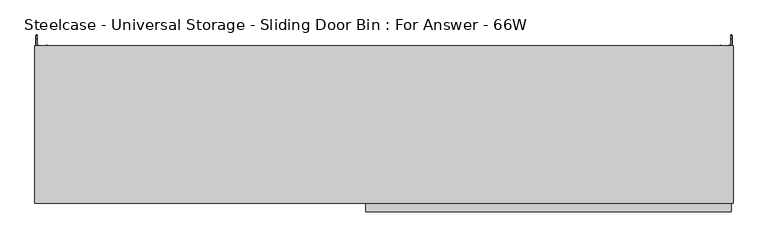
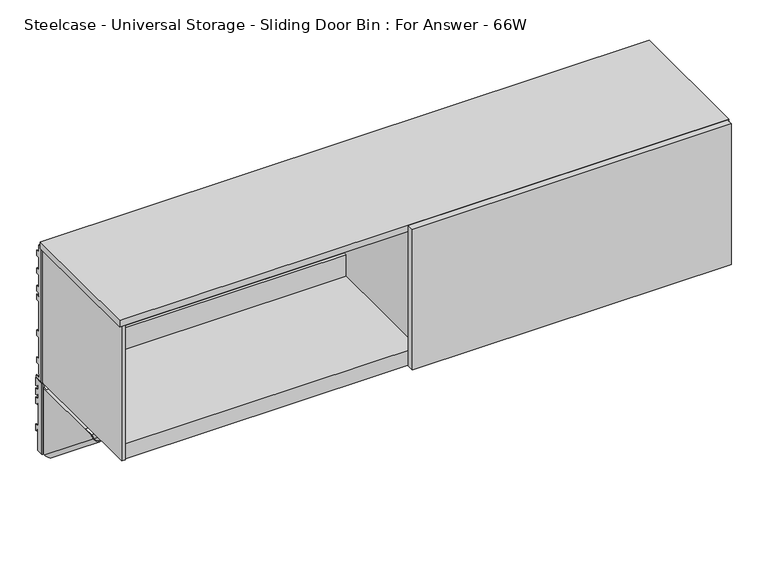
"""IFC4 building model written with IfcOpenShell, lengths in millimetres: furniture geometry, Steelcase - Universal Storage - Sliding Door Bin : For Answer - 66W."""

from ifc_helpers import new_model, si_unit, frame, origin, place, context, project, spatial, polyline, circle_curve, ellipse_curve, outline, extrude, faceted_brep, source, transform, mapped, element, save
from ifc_brep_helpers import plane_surface, cylinder_surface, revolved_surface, advanced_brep


def steelcase_universal_storage_sliding_door_bin_for_answer_66w_88fc4fc5(model_context):
    return source(origin(), model_context, "Body", "SolidModel", [
        advanced_brep(
        [(4.0894, 24.9864881, 1265.2629), (4.0894, 1.1327479, 1265.2629), (4.0894, 1.1203386, 1058.2783), (4.0894, 17.3410881, 1058.2783), (4.0894, 17.3410881, 1118.4254822), (4.0894, 21.4050888, 1118.4254822), (4.0894, 21.4050888, 1112.0755064), (4.0894, 24.9864881, 1112.0755064), (4.0894, 24.9864881, 1130.3381271), (4.0894, 14.7756879, 1130.3381271), (4.0894, 14.7756879, 1196.9115345), (4.0894, 18.8396885, 1196.9115345), (4.0894, 18.8396885, 1190.561486), (4.0894, 24.9864881, 1190.561486), (4.0894, 24.9864881, 1208.8241068), (4.0894, 14.7756879, 1208.8241068), (4.0894, 14.7756879, 1223.0735277), (4.0894, 18.8396885, 1223.0735277), (4.0894, 18.8396885, 1216.7234793), (4.0894, 24.9864881, 1216.7234793), (4.0894, 24.9864881, 1234.9861), (4.0894, 14.7756879, 1234.9861), (4.0894, 14.7756879, 1249.2355209), (4.0894, 18.8396885, 1249.2355209), (4.0894, 18.8396885, 1242.8854725), (4.0894, 24.9864881, 1242.8854725), (2.1844, 24.9864881, 1265.2629), (2.1844, 24.9864881, 1242.8854725), (2.1844, 18.8396885, 1242.8854725), (2.1844, 18.8396885, 1249.2355209), (2.1844, 14.7756879, 1249.2355209), (2.1844, 14.7756879, 1234.9861), (2.1844, 24.9864881, 1234.9861), (2.1844, 24.9864881, 1216.7234793), (2.1844, 18.8396885, 1216.7234793), (2.1844, 18.8396885, 1223.0735277), (2.1844, 14.7756879, 1223.0735277), (2.1844, 14.7756879, 1208.8241068), (2.1844, 24.9864881, 1208.8241068), (2.1844, 24.9864881, 1190.561486), (2.1844, 18.8396885, 1190.561486), (2.1844, 18.8396885, 1196.9115345), (2.1844, 14.7756879, 1196.9115345), (2.1844, 14.7756879, 1130.3381271), (2.1844, 24.9864881, 1130.3381271), (2.1844, 24.9864881, 1112.0755064), (2.1844, 21.4050888, 1112.0755064), (2.1844, 21.4050888, 1118.4254822), (2.1844, 17.3410881, 1118.4254822), (2.1844, 17.3410881, 1058.2783), (2.1844, -0.7757522, 1058.2783), (2.1844, -0.7757522, 1265.2629), (4.4891598, -3.080512, 1265.2629), (8.1026, -3.080512, 1265.2629), (8.1026, -1.7838863, 1265.2629), (7.4942256, -1.175512, 1265.2629), (6.3852506, -1.175512, 1265.2629), (6.3852506, -1.175512, 1058.2783), (7.4942256, -1.175512, 1058.2783), (8.1026, -1.7838863, 1058.2783), (8.1026, -3.080512, 1058.2783), (4.4891598, -3.080512, 1058.2783)],
        [
            (0, 1),
            (1, 2),
            (2, 3),
            (3, 4),
            (4, 5),
            (5, 6),
            (6, 7),
            (7, 8),
            (8, 9),
            (9, 10),
            (10, 11),
            (11, 12),
            (12, 13),
            (13, 14),
            (14, 15),
            (15, 16),
            (16, 17),
            (17, 18),
            (18, 19),
            (19, 20),
            (20, 21),
            (21, 22),
            (22, 23),
            (23, 24),
            (24, 25),
            (25, 0),
            (26, 27),
            (27, 28),
            (28, 29),
            (29, 30),
            (30, 31),
            (31, 32),
            (32, 33),
            (33, 34),
            (34, 35),
            (35, 36),
            (36, 37),
            (37, 38),
            (38, 39),
            (39, 40),
            (40, 41),
            (41, 42),
            (42, 43),
            (43, 44),
            (44, 45),
            (45, 46),
            (46, 47),
            (47, 48),
            (48, 49),
            (49, 50),
            (50, 51),
            (51, 26),
            (0, 26),
            (51, 52, circle_curve(frame((4.4891598, -0.7757522, 1265.2629), z_axis=(0.0, 0.0, 1.0), x_axis=(1.0, 0.0, 0.0)), 2.3047598)),
            (52, 53),
            (53, 54),
            (54, 55, circle_curve(frame((7.4942256, -1.7838863, 1265.2629), z_axis=(0.0, 0.0, 1.0), x_axis=(1.0, 0.0, 0.0)), 0.6083744)),
            (55, 56),
            (56, 1, circle_curve(frame((6.3852506, 1.1203386, 1265.2629), z_axis=(0.0, 0.0, -1.0), x_axis=(1.0, 0.0, 0.0)), 2.2958506)),
            (2, 57, circle_curve(frame((6.3852506, 1.1203386, 1058.2783), z_axis=(0.0, 0.0, 1.0), x_axis=(1.0, 0.0, 0.0)), 2.2958506)),
            (57, 58),
            (58, 59, circle_curve(frame((7.4942256, -1.7838863, 1058.2783), z_axis=(0.0, 0.0, -1.0), x_axis=(1.0, 0.0, 0.0)), 0.6083744)),
            (59, 60),
            (60, 61),
            (61, 50, circle_curve(frame((4.4891598, -0.7757522, 1058.2783), z_axis=(0.0, 0.0, -1.0), x_axis=(1.0, 0.0, 0.0)), 2.3047598)),
            (49, 3),
            (48, 4),
            (47, 5),
            (46, 6),
            (45, 7),
            (44, 8),
            (43, 9),
            (42, 10),
            (41, 11),
            (40, 12),
            (39, 13),
            (38, 14),
            (37, 15),
            (36, 16),
            (35, 17),
            (34, 18),
            (33, 19),
            (32, 20),
            (31, 21),
            (30, 22),
            (29, 23),
            (28, 24),
            (27, 25),
            (61, 52),
            (60, 53),
            (59, 54),
            (58, 55),
            (57, 56),
        ],
        [
            plane_surface(frame((4.0894, 1.241405, 1265.2629), z_axis=(1.0, 0.0, 0.0), x_axis=(0.0, -1.0, 0.0))),
            plane_surface(frame((2.1844, 1.241405, 1265.2629), z_axis=(-1.0, 0.0, 0.0), x_axis=(0.0, 1.0, 0.0))),
            plane_surface(frame((4.0894, 24.9864881, 1265.2629), z_axis=(0.0, 0.0, 1.0), x_axis=(-1.0, 0.0, 0.0))),
            plane_surface(frame((4.0894, 1.1327479, 1058.2783), z_axis=(0.0, 0.0, -1.0), x_axis=(-1.0, 0.0, 0.0))),
            plane_surface(frame((4.0894, 17.3410881, 1058.2783), z_axis=(0.0, 1.0, 0.0), x_axis=(-1.0, 0.0, 0.0))),
            plane_surface(frame((4.0894, 17.3410881, 1118.4254822), z_axis=(0.0, 0.0, -1.0), x_axis=(-1.0, 0.0, 0.0))),
            plane_surface(frame((4.0894, 21.4050888, 1118.4254822), z_axis=(0.0, -1.0, 0.0), x_axis=(-1.0, 0.0, 0.0))),
            plane_surface(frame((4.0894, 21.4050888, 1112.0755064), z_axis=(0.0, 0.0, -1.0), x_axis=(-1.0, 0.0, 0.0))),
            plane_surface(frame((4.0894, 24.9864881, 1112.0755064), z_axis=(0.0, 1.0, 0.0), x_axis=(-1.0, 0.0, 0.0))),
            plane_surface(frame((4.0894, 24.9864881, 1130.3381271), z_axis=(0.0, 0.0, 1.0), x_axis=(-1.0, 0.0, 0.0))),
            plane_surface(frame((4.0894, 14.7756879, 1130.3381271), z_axis=(0.0, 1.0, 0.0), x_axis=(-1.0, 0.0, 0.0))),
            plane_surface(frame((4.0894, 14.7756879, 1196.9115345), z_axis=(0.0, 0.0, -1.0), x_axis=(-1.0, 0.0, 0.0))),
            plane_surface(frame((4.0894, 18.8396885, 1196.9115345), z_axis=(0.0, -1.0, 0.0), x_axis=(-1.0, 0.0, 0.0))),
            plane_surface(frame((4.0894, 18.8396885, 1190.561486), z_axis=(0.0, 0.0, -1.0), x_axis=(-1.0, 0.0, 0.0))),
            plane_surface(frame((4.0894, 24.9864881, 1190.561486), z_axis=(0.0, 1.0, 0.0), x_axis=(-1.0, 0.0, 0.0))),
            plane_surface(frame((4.0894, 24.9864881, 1208.8241068), z_axis=(0.0, 0.0, 1.0), x_axis=(-1.0, 0.0, 0.0))),
            plane_surface(frame((4.0894, 14.7756879, 1208.8241068), z_axis=(0.0, 1.0, 0.0), x_axis=(-1.0, 0.0, 0.0))),
            plane_surface(frame((4.0894, 14.7756879, 1223.0735277), z_axis=(0.0, 0.0, -1.0), x_axis=(-1.0, 0.0, 0.0))),
            plane_surface(frame((4.0894, 18.8396885, 1223.0735277), z_axis=(0.0, -1.0, 0.0), x_axis=(-1.0, 0.0, 0.0))),
            plane_surface(frame((4.0894, 18.8396885, 1216.7234793), z_axis=(0.0, 0.0, -1.0), x_axis=(-1.0, 0.0, 0.0))),
            plane_surface(frame((4.0894, 24.9864881, 1216.7234793), z_axis=(0.0, 1.0, 0.0), x_axis=(-1.0, 0.0, 0.0))),
            plane_surface(frame((4.0894, 24.9864881, 1234.9861), z_axis=(0.0, 0.0, 1.0), x_axis=(-1.0, 0.0, 0.0))),
            plane_surface(frame((4.0894, 14.7756879, 1234.9861), z_axis=(0.0, 1.0, 0.0), x_axis=(-1.0, 0.0, 0.0))),
            plane_surface(frame((4.0894, 14.7756879, 1249.2355209), z_axis=(0.0, 0.0, -1.0), x_axis=(-1.0, 0.0, 0.0))),
            plane_surface(frame((4.0894, 18.8396885, 1249.2355209), z_axis=(0.0, -1.0, 0.0), x_axis=(-1.0, 0.0, 0.0))),
            plane_surface(frame((4.0894, 18.8396885, 1242.8854725), z_axis=(0.0, 0.0, -1.0), x_axis=(-1.0, 0.0, 0.0))),
            plane_surface(frame((4.0894, 24.9864881, 1242.8854725), z_axis=(0.0, 1.0, 0.0), x_axis=(-1.0, 0.0, 0.0))),
            cylinder_surface(frame((4.4891598, -0.7757522, 1058.2783), z_axis=(0.0, 0.0, 1.0), x_axis=(1.0, 0.0, 0.0)), 2.3047598),
            plane_surface(frame((4.4891598, -3.080512, 1265.2629), z_axis=(0.0, -1.0, 0.0), x_axis=(0.0, 0.0, -1.0))),
            plane_surface(frame((8.1026, -3.080512, 1265.2629), z_axis=(1.0, 0.0, 0.0), x_axis=(0.0, 0.0, -1.0))),
            cylinder_surface(frame((7.4942256, -1.7838863, 1058.2783), z_axis=(0.0, 0.0, 1.0), x_axis=(1.0, 0.0, 0.0)), 0.6083744),
            plane_surface(frame((7.4942256, -1.175512, 1265.2629), z_axis=(0.0, 1.0, 0.0), x_axis=(0.0, 0.0, -1.0))),
            revolved_surface(polyline([(8.6811012, 1.1203386, 1058.2783), (8.6811012, 1.1203386, 1265.2629)]), (6.3852506, 1.1203386, 1058.2783), (0.0, 0.0, -1.0)),
        ],
        [
            (0, [[1, 2, 3, 4, 5, 6, 7, 8, 9, 10, 11, 12, 13, 14, 15, 16, 17, 18, 19, 20, 21, 22, 23, 24, 25, 26]]),
            (1, [[27, 28, 29, 30, 31, 32, 33, 34, 35, 36, 37, 38, 39, 40, 41, 42, 43, 44, 45, 46, 47, 48, 49, 50, 51, 52]]),
            (2, [[-1, 53, -52, 54, 55, 56, 57, 58, 59]]),
            (3, [[-3, 60, 61, 62, 63, 64, 65, -50, 66]]),
            (4, [[-4, -66, -49, 67]]),
            (5, [[-5, -67, -48, 68]]),
            (6, [[-6, -68, -47, 69]]),
            (7, [[-7, -69, -46, 70]]),
            (8, [[-8, -70, -45, 71]]),
            (9, [[-9, -71, -44, 72]]),
            (10, [[-10, -72, -43, 73]]),
            (11, [[-11, -73, -42, 74]]),
            (12, [[-12, -74, -41, 75]]),
            (13, [[-13, -75, -40, 76]]),
            (14, [[-14, -76, -39, 77]]),
            (15, [[-15, -77, -38, 78]]),
            (16, [[-16, -78, -37, 79]]),
            (17, [[-17, -79, -36, 80]]),
            (18, [[-18, -80, -35, 81]]),
            (19, [[-19, -81, -34, 82]]),
            (20, [[-20, -82, -33, 83]]),
            (21, [[-21, -83, -32, 84]]),
            (22, [[-22, -84, -31, 85]]),
            (23, [[-23, -85, -30, 86]]),
            (24, [[-24, -86, -29, 87]]),
            (25, [[-25, -87, -28, 88]]),
            (26, [[-26, -88, -27, -53]]),
            (27, [[-54, -51, -65, 89]]),
            (28, [[-55, -89, -64, 90]]),
            (29, [[-56, -90, -63, 91]]),
            (30, [[-57, -91, -62, 92]]),
            (31, [[-58, -92, -61, 93]]),
            (32, [[-59, -93, -60, -2]]),
        ],
    ),
        advanced_brep(
        [(1672.3106, 24.9864881, 1265.2629), (1672.3106, 24.9864881, 1242.8854725), (1672.3106, 18.8396885, 1242.8854725), (1672.3106, 18.8396885, 1249.2355209), (1672.3106, 14.7756879, 1249.2355209), (1672.3106, 14.7756879, 1234.9861), (1672.3106, 24.9864881, 1234.9861), (1672.3106, 24.9864881, 1216.7234793), (1672.3106, 18.8396885, 1216.7234793), (1672.3106, 18.8396885, 1223.0735277), (1672.3106, 14.7756879, 1223.0735277), (1672.3106, 14.7756879, 1208.8241068), (1672.3106, 24.9864881, 1208.8241068), (1672.3106, 24.9864881, 1190.561486), (1672.3106, 18.8396885, 1190.561486), (1672.3106, 18.8396885, 1196.9115345), (1672.3106, 14.7756879, 1196.9115345), (1672.3106, 14.7756879, 1130.3381271), (1672.3106, 24.9864881, 1130.3381271), (1672.3106, 24.9864881, 1112.0755064), (1672.3106, 21.4050888, 1112.0755064), (1672.3106, 21.4050888, 1118.4254822), (1672.3106, 17.3410881, 1118.4254822), (1672.3106, 17.3410881, 1058.2783), (1672.3106, 1.1327479, 1058.2783), (1672.3106, 1.1203386, 1265.2629), (1674.2156, -0.7757522, 1265.2629), (1674.2156, -0.7757522, 1058.2783), (1674.2156, 17.3410881, 1058.2783), (1674.2156, 17.3410881, 1118.4254822), (1674.2156, 21.4050888, 1118.4254822), (1674.2156, 21.4050888, 1112.0755064), (1674.2156, 24.9864881, 1112.0755064), (1674.2156, 24.9864881, 1130.3381271), (1674.2156, 14.7756879, 1130.3381271), (1674.2156, 14.7756879, 1196.9115345), (1674.2156, 18.8396885, 1196.9115345), (1674.2156, 18.8396885, 1190.561486), (1674.2156, 24.9864881, 1190.561486), (1674.2156, 24.9864881, 1208.8241068), (1674.2156, 14.7756879, 1208.8241068), (1674.2156, 14.7756879, 1223.0735277), (1674.2156, 18.8396885, 1223.0735277), (1674.2156, 18.8396885, 1216.7234793), (1674.2156, 24.9864881, 1216.7234793), (1674.2156, 24.9864881, 1234.9861), (1674.2156, 14.7756879, 1234.9861), (1674.2156, 14.7756879, 1249.2355209), (1674.2156, 18.8396885, 1249.2355209), (1674.2156, 18.8396885, 1242.8854725), (1674.2156, 24.9864881, 1242.8854725), (1674.2156, 24.9864881, 1265.2629), (1671.9108402, -3.080512, 1058.2783), (1668.5006, -3.080512, 1058.2783), (1668.5006, -1.7838863, 1058.2783), (1669.1089744, -1.175512, 1058.2783), (1670.0147494, -1.175512, 1058.2783), (1670.0147494, -1.175512, 1265.2629), (1669.1089744, -1.175512, 1265.2629), (1668.5006, -1.7838863, 1265.2629), (1668.5006, -3.080512, 1265.2629), (1671.9108402, -3.080512, 1265.2629)],
        [
            (0, 1),
            (1, 2),
            (2, 3),
            (3, 4),
            (4, 5),
            (5, 6),
            (6, 7),
            (7, 8),
            (8, 9),
            (9, 10),
            (10, 11),
            (11, 12),
            (12, 13),
            (13, 14),
            (14, 15),
            (15, 16),
            (16, 17),
            (17, 18),
            (18, 19),
            (19, 20),
            (20, 21),
            (21, 22),
            (22, 23),
            (23, 24),
            (24, 25),
            (25, 0),
            (26, 27),
            (27, 28),
            (28, 29),
            (29, 30),
            (30, 31),
            (31, 32),
            (32, 33),
            (33, 34),
            (34, 35),
            (35, 36),
            (36, 37),
            (37, 38),
            (38, 39),
            (39, 40),
            (40, 41),
            (41, 42),
            (42, 43),
            (43, 44),
            (44, 45),
            (45, 46),
            (46, 47),
            (47, 48),
            (48, 49),
            (49, 50),
            (50, 51),
            (51, 26),
            (0, 51),
            (50, 1),
            (49, 2),
            (48, 3),
            (47, 4),
            (46, 5),
            (45, 6),
            (44, 7),
            (43, 8),
            (42, 9),
            (41, 10),
            (40, 11),
            (39, 12),
            (38, 13),
            (37, 14),
            (36, 15),
            (35, 16),
            (34, 17),
            (33, 18),
            (32, 19),
            (31, 20),
            (30, 21),
            (29, 22),
            (28, 23),
            (27, 52, circle_curve(frame((1671.9108402, -0.7757522, 1058.2783), z_axis=(0.0, 0.0, -1.0), x_axis=(0.0, 1.0, 0.0)), 2.3047598)),
            (52, 53),
            (53, 54),
            (54, 55, circle_curve(frame((1669.1089744, -1.7838863, 1058.2783), z_axis=(0.0, 0.0, -1.0), x_axis=(0.0, 1.0, 0.0)), 0.6083744)),
            (55, 56),
            (56, 24, circle_curve(frame((1670.0147494, 1.1203386, 1058.2783), z_axis=(0.0, 0.0, 1.0), x_axis=(0.0, 1.0, 0.0)), 2.2958506)),
            (25, 57, circle_curve(frame((1670.0147494, 1.1203386, 1265.2629), z_axis=(0.0, 0.0, -1.0), x_axis=(0.0, 1.0, 0.0)), 2.2958506)),
            (57, 58),
            (58, 59, circle_curve(frame((1669.1089744, -1.7838863, 1265.2629), z_axis=(0.0, 0.0, 1.0), x_axis=(0.0, 1.0, 0.0)), 0.6083744)),
            (59, 60),
            (60, 61),
            (61, 26, circle_curve(frame((1671.9108402, -0.7757522, 1265.2629), z_axis=(0.0, 0.0, 1.0), x_axis=(0.0, 1.0, 0.0)), 2.3047598)),
            (56, 57),
            (55, 58),
            (54, 59),
            (53, 60),
            (52, 61),
        ],
        [
            plane_surface(frame((1672.3106, 24.9864881, 1265.2629), z_axis=(-1.0, 0.0, 0.0), x_axis=(0.0, 0.0, -1.0))),
            plane_surface(frame((1674.2156, 24.9864881, 1265.2629), z_axis=(1.0, 0.0, 0.0), x_axis=(0.0, 0.0, 1.0))),
            plane_surface(frame((1672.3106, 24.9864881, 1265.2629), z_axis=(0.0, 1.0, 0.0), x_axis=(1.0, 0.0, 0.0))),
            plane_surface(frame((1672.3106, 24.9864881, 1242.8854725), z_axis=(0.0, 0.0, -1.0), x_axis=(1.0, 0.0, 0.0))),
            plane_surface(frame((1672.3106, 18.8396885, 1242.8854725), z_axis=(0.0, -1.0, 0.0), x_axis=(1.0, 0.0, 0.0))),
            plane_surface(frame((1672.3106, 18.8396885, 1249.2355209), z_axis=(0.0, 0.0, -1.0), x_axis=(1.0, 0.0, 0.0))),
            plane_surface(frame((1672.3106, 14.7756879, 1249.2355209), z_axis=(0.0, 1.0, 0.0), x_axis=(1.0, 0.0, 0.0))),
            plane_surface(frame((1672.3106, 14.7756879, 1234.9861), z_axis=(0.0, 0.0, 1.0), x_axis=(1.0, 0.0, 0.0))),
            plane_surface(frame((1672.3106, 24.9864881, 1234.9861), z_axis=(0.0, 1.0, 0.0), x_axis=(1.0, 0.0, 0.0))),
            plane_surface(frame((1672.3106, 24.9864881, 1216.7234793), z_axis=(0.0, 0.0, -1.0), x_axis=(1.0, 0.0, 0.0))),
            plane_surface(frame((1672.3106, 18.8396885, 1216.7234793), z_axis=(0.0, -1.0, 0.0), x_axis=(1.0, 0.0, 0.0))),
            plane_surface(frame((1672.3106, 18.8396885, 1223.0735277), z_axis=(0.0, 0.0, -1.0), x_axis=(1.0, 0.0, 0.0))),
            plane_surface(frame((1672.3106, 14.7756879, 1223.0735277), z_axis=(0.0, 1.0, 0.0), x_axis=(1.0, 0.0, 0.0))),
            plane_surface(frame((1672.3106, 14.7756879, 1208.8241068), z_axis=(0.0, 0.0, 1.0), x_axis=(1.0, 0.0, 0.0))),
            plane_surface(frame((1672.3106, 24.9864881, 1208.8241068), z_axis=(0.0, 1.0, 0.0), x_axis=(1.0, 0.0, 0.0))),
            plane_surface(frame((1672.3106, 24.9864881, 1190.561486), z_axis=(0.0, 0.0, -1.0), x_axis=(1.0, 0.0, 0.0))),
            plane_surface(frame((1672.3106, 18.8396885, 1190.561486), z_axis=(0.0, -1.0, 0.0), x_axis=(1.0, 0.0, 0.0))),
            plane_surface(frame((1672.3106, 18.8396885, 1196.9115345), z_axis=(0.0, 0.0, -1.0), x_axis=(1.0, 0.0, 0.0))),
            plane_surface(frame((1672.3106, 14.7756879, 1196.9115345), z_axis=(0.0, 1.0, 0.0), x_axis=(1.0, 0.0, 0.0))),
            plane_surface(frame((1672.3106, 14.7756879, 1130.3381271), z_axis=(0.0, 0.0, 1.0), x_axis=(1.0, 0.0, 0.0))),
            plane_surface(frame((1672.3106, 24.9864881, 1130.3381271), z_axis=(0.0, 1.0, 0.0), x_axis=(1.0, 0.0, 0.0))),
            plane_surface(frame((1672.3106, 24.9864881, 1112.0755064), z_axis=(0.0, 0.0, -1.0), x_axis=(1.0, 0.0, 0.0))),
            plane_surface(frame((1672.3106, 21.4050888, 1112.0755064), z_axis=(0.0, -1.0, 0.0), x_axis=(1.0, 0.0, 0.0))),
            plane_surface(frame((1672.3106, 21.4050888, 1118.4254822), z_axis=(0.0, 0.0, -1.0), x_axis=(1.0, 0.0, 0.0))),
            plane_surface(frame((1672.3106, 17.3410881, 1118.4254822), z_axis=(0.0, 1.0, 0.0), x_axis=(1.0, 0.0, 0.0))),
            plane_surface(frame((1672.3106, 17.3410881, 1058.2783), z_axis=(0.0, 0.0, -1.0), x_axis=(1.0, 0.0, 0.0))),
            plane_surface(frame((1672.3106, 1.1327479, 1265.2629), z_axis=(0.0, 0.0, 1.0), x_axis=(1.0, 0.0, 0.0))),
            revolved_surface(polyline([(1670.0147494, 3.4161892, 1058.2783), (1670.0147494, 3.4161892, 1265.2629)]), (1670.0147494, 1.1203386, 1058.2783), (0.0, 0.0, -1.0)),
            plane_surface(frame((1670.0147494, -1.175512, 1265.2629), z_axis=(3.837466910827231e-11, 1.0, 0.0), x_axis=(0.0, 0.0, -1.0))),
            cylinder_surface(frame((1669.1089744, -1.7838863, 1058.2783), z_axis=(0.0, 0.0, 1.0), x_axis=(0.0, 1.0, 0.0)), 0.6083744),
            plane_surface(frame((1668.5006, -1.7838863, 1265.2629), z_axis=(-1.0, 0.0, 0.0), x_axis=(0.0, 0.0, -1.0))),
            plane_surface(frame((1668.5006, -3.080512, 1265.2629), z_axis=(6.4185895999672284e-12, -1.0, 0.0), x_axis=(0.0, 0.0, -1.0))),
            cylinder_surface(frame((1671.9108402, -0.7757522, 1058.2783), z_axis=(0.0, 0.0, 1.0), x_axis=(0.0, 1.0, 0.0)), 2.3047598),
        ],
        [
            (0, [[1, 2, 3, 4, 5, 6, 7, 8, 9, 10, 11, 12, 13, 14, 15, 16, 17, 18, 19, 20, 21, 22, 23, 24, 25, 26]]),
            (1, [[27, 28, 29, 30, 31, 32, 33, 34, 35, 36, 37, 38, 39, 40, 41, 42, 43, 44, 45, 46, 47, 48, 49, 50, 51, 52]]),
            (2, [[-1, 53, -51, 54]]),
            (3, [[-2, -54, -50, 55]]),
            (4, [[-3, -55, -49, 56]]),
            (5, [[-4, -56, -48, 57]]),
            (6, [[-5, -57, -47, 58]]),
            (7, [[-6, -58, -46, 59]]),
            (8, [[-7, -59, -45, 60]]),
            (9, [[-8, -60, -44, 61]]),
            (10, [[-9, -61, -43, 62]]),
            (11, [[-10, -62, -42, 63]]),
            (12, [[-11, -63, -41, 64]]),
            (13, [[-12, -64, -40, 65]]),
            (14, [[-13, -65, -39, 66]]),
            (15, [[-14, -66, -38, 67]]),
            (16, [[-15, -67, -37, 68]]),
            (17, [[-16, -68, -36, 69]]),
            (18, [[-17, -69, -35, 70]]),
            (19, [[-18, -70, -34, 71]]),
            (20, [[-19, -71, -33, 72]]),
            (21, [[-20, -72, -32, 73]]),
            (22, [[-21, -73, -31, 74]]),
            (23, [[-22, -74, -30, 75]]),
            (24, [[-23, -75, -29, 76]]),
            (25, [[-24, -76, -28, 77, 78, 79, 80, 81, 82]]),
            (26, [[-26, 83, 84, 85, 86, 87, 88, -52, -53]]),
            (27, [[-83, -25, -82, 89]]),
            (28, [[-84, -89, -81, 90]]),
            (29, [[-85, -90, -80, 91]]),
            (30, [[-86, -91, -79, 92]]),
            (31, [[-87, -92, -78, 93]]),
            (32, [[-88, -93, -77, -27]]),
        ],
    ),
        advanced_brep(
        [(1647.3424, -230.0833372, 1251.1405), (1647.3424, 1.1327479, 1063.9053738), (1645.2342, 1.1327479, 1063.9053738), (1645.2342, -230.0833372, 1251.1405), (1645.2342, 1.1327479, 1058.2783), (1645.2342, -7.7654502, 1058.2783), (1645.2342, -240.6555763, 1246.8690381), (1668.5006, -7.7654502, 1058.2783), (1668.5006, -240.6555763, 1246.8690381), (1668.5006, 1.1327479, 1058.2783), (1668.5006, 1.1327479, 1063.9053738), (1668.5006, -3.080512, 1067.317205), (1668.5006, -3.080512, 1251.1405), (1668.5006, -230.0833372, 1251.1405), (1666.3924009, 1.1327479, 1063.9053738), (1666.3924009, -3.080512, 1067.317205), (1666.3924009, -7.7654502, 1058.2783), (1666.3924009, -240.6555763, 1246.8690381), (1666.3924009, -230.0833372, 1251.1405), (1666.3924009, -200.311512, 1251.1405), (1666.3924009, -200.311512, 1250.3023163), (1666.3924009, -14.0787123, 1250.3023163), (1666.3924009, -14.0787123, 1251.1405), (1666.3924009, -3.080512, 1251.1405), (1666.3924009, 1.1327479, 1058.2783), (1647.3424, -7.7654502, 1058.2783), (1647.3424, -240.6555763, 1246.8690381), (1647.3424, 1.1327479, 1058.2783), (1637.4617978, -200.311512, 1251.1405), (1637.4617978, -200.311512, 1269.5555016), (1636.6236, -200.311512, 1269.5555016), (1636.6236, -200.311512, 1250.3023163), (1636.6236, -82.5825138, 1269.5555016), (1637.4617978, -82.5825138, 1269.5555016), (1637.4617978, -82.5825138, 1251.1405), (1636.6236, -82.5825138, 1251.1405), (1636.6236, -14.0787123, 1251.1405), (1636.6236, -14.0787123, 1250.3023163)],
        [
            (0, 1),
            (1, 2),
            (2, 3),
            (3, 0),
            (2, 4),
            (4, 5),
            (5, 6),
            (6, 3),
            (5, 7, ellipse_curve(frame((1656.8674, -7.7654502, 1058.2783), z_axis=(0.0, 0.0, 1.0), x_axis=(0.0, -1.0, 0.0)), 18.4853359, 11.6332)),
            (7, 8),
            (8, 6, ellipse_curve(frame((1656.8674, -240.6555763, 1246.8690381), z_axis=(0.0, 0.374606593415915, -0.9271838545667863), x_axis=(0.0, -0.9271838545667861, -0.3746065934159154)), 13.3008659, 11.6332)),
            (7, 9),
            (9, 10),
            (10, 11),
            (11, 12),
            (12, 13),
            (13, 8),
            (10, 14),
            (14, 15),
            (15, 11),
            (16, 17),
            (17, 18),
            (18, 19),
            (19, 20),
            (20, 21),
            (21, 22),
            (22, 23),
            (23, 15),
            (14, 24),
            (24, 16),
            (16, 25, ellipse_curve(frame((1656.8674005, -7.7654502, 1058.2783), z_axis=(0.0, 0.0, -1.0), x_axis=(0.0, 1.0, 0.0)), 15.135374, 9.5250005)),
            (25, 26),
            (26, 17, ellipse_curve(frame((1656.8674005, -240.6555763, 1246.8690381), z_axis=(0.0, -0.374606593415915, 0.9271838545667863), x_axis=(0.0, 0.9271838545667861, 0.3746065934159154)), 10.8904475, 9.5250005)),
            (0, 26),
            (25, 27),
            (27, 1),
            (13, 18),
            (24, 9),
            (4, 27),
            (28, 29),
            (29, 30),
            (30, 31),
            (31, 20),
            (19, 28),
            (32, 33),
            (33, 34),
            (34, 35),
            (35, 32),
            (35, 36),
            (36, 37),
            (37, 31),
            (30, 32),
            (28, 34),
            (33, 29),
            (36, 22),
            (21, 37),
            (12, 23),
        ],
        [
            plane_surface(frame((1647.3424, -241.2702093, 1260.199452), z_axis=(0.0, 0.6293204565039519, 0.7771459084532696), x_axis=(0.0, 0.7771459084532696, -0.6293204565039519))),
            plane_surface(frame((1645.2342, -241.2702093, 1260.199452), z_axis=(-1.0, 0.0, -1.0336974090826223e-12), x_axis=(0.0, 0.7771459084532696, -0.6293204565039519))),
            cylinder_surface(frame((1656.8674, 5.728998, 1047.3507094), z_axis=(0.0, -0.7771459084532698, 0.6293204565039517), x_axis=(0.0, 0.6293204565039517, 0.7771459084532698)), 11.6332),
            plane_surface(frame((1668.5006, -247.5463438, 1252.4490726), z_axis=(1.0, 0.0, 0.0), x_axis=(0.0, 0.7771459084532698, -0.6293204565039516))),
            plane_surface(frame((1668.5006, -241.2702093, 1260.199452), z_axis=(0.0, 0.6293204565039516, 0.7771459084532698), x_axis=(0.0, 0.7771459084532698, -0.6293204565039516))),
            plane_surface(frame((1666.3924009, -241.2702093, 1260.199452), z_axis=(-1.0, 0.0, 0.0), x_axis=(0.0, 0.7771459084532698, -0.6293204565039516))),
            revolved_surface(polyline([(1656.8674005, 7.3699238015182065, 1058.2783000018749), (1656.8674005, -238.76446812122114, 1257.5940349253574)]), (1656.8674005, 5.728998, 1047.3507094), (0.0, 0.7771459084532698, -0.6293204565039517)),
            plane_surface(frame((1647.3424, -247.5463438, 1252.4490726), z_axis=(1.0, 0.0, 0.0), x_axis=(0.0, 0.7771459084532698, -0.6293204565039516))),
            plane_surface(frame((1676.4, -257.2236519, 1240.1751011), z_axis=(0.0, -0.374606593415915, 0.9271838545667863), x_axis=(-1.0, 0.0, 0.0))),
            plane_surface(frame((1676.4, 1.1327479, 1058.2783), z_axis=(0.0, 0.0, -1.0), x_axis=(-1.0, 0.0, 0.0))),
            plane_surface(frame((1676.4, 1.1327479, 1070.9783), z_axis=(0.0, 1.0, 0.0), x_axis=(-1.0, 0.0, 0.0))),
            plane_surface(frame((1636.6236, -200.311512, 1269.5555016), z_axis=(0.0, -1.0, 0.0), x_axis=(0.0, 0.0, -1.0))),
            plane_surface(frame((1636.6236, -82.5825138, 1269.5555016), z_axis=(0.0, 1.0, 0.0), x_axis=(0.0, 0.0, 1.0))),
            plane_surface(frame((1636.6236, -200.311512, 1269.5555016), z_axis=(-1.0, 0.0, 0.0), x_axis=(0.0, 1.0, 0.0))),
            plane_surface(frame((1637.4617978, -200.311512, 1251.1405), z_axis=(1.0, 0.0, 0.0), x_axis=(0.0, 1.0, 0.0))),
            plane_surface(frame((1637.4617978, -200.311512, 1269.5555016), z_axis=(0.0, 0.0, 1.0), x_axis=(0.0, 1.0, 0.0))),
            plane_surface(frame((1636.6236, -14.0787123, 1251.1405), z_axis=(0.0, 1.0, 0.0), x_axis=(0.0, 0.0, 1.0))),
            plane_surface(frame((1636.6236, -200.311512, 1250.3023163), z_axis=(0.0, 0.0, -1.0), x_axis=(0.0, 1.0, 0.0))),
            plane_surface(frame((1668.5006, -200.311512, 1251.1405), z_axis=(0.0, 0.0, 1.0), x_axis=(0.0, 1.0, 0.0))),
            plane_surface(frame((1668.5006, -3.080512, 1067.317205), z_axis=(0.0, 1.0, 0.0), x_axis=(-1.0, 0.0, 0.0))),
        ],
        [
            (0, [[1, 2, 3, 4]]),
            (1, [[-3, 5, 6, 7, 8]]),
            (2, [[-7, 9, 10, 11]]),
            (3, [[-10, 12, 13, 14, 15, 16, 17]]),
            (4, [[18, 19, 20, -14]]),
            (5, [[21, 22, 23, 24, 25, 26, 27, 28, -19, 29, 30]]),
            (6, [[-21, 31, 32, 33]]),
            (7, [[-1, 34, -32, 35, 36]]),
            (8, [[-4, -8, -11, -17, 37, -22, -33, -34]]),
            (9, [[38, -12, -9, -6, 39, -35, -31, -30]]),
            (10, [[-38, -29, -18, -13]]),
            (10, [[-39, -5, -2, -36]]),
            (11, [[40, 41, 42, 43, -24, 44]]),
            (12, [[45, 46, 47, 48]]),
            (13, [[-48, 49, 50, 51, -42, 52]]),
            (14, [[-40, 53, -46, 54]]),
            (15, [[-41, -54, -45, -52]]),
            (16, [[-50, 55, -26, 56]]),
            (17, [[-51, -56, -25, -43]]),
            (18, [[57, -27, -55, -49, -47, -53, -44, -23, -37, -16]]),
            (19, [[-15, -20, -28, -57]]),
        ],
    ),
        advanced_brep(
        [(8.1026, -3.080512, 1067.317205), (8.1026, -3.080512, 1251.1405), (8.1026, -14.0787123, 1251.1405), (8.1026, -14.0787123, 1250.3023163), (8.1026, -200.311512, 1250.3023163), (8.1026, -200.311512, 1251.1405), (8.1026, -230.0833372, 1251.1405), (8.1026, -240.6555763, 1246.8690381), (8.1026, -7.7654502, 1058.2783), (8.1026, 1.1327479, 1058.2783), (8.1026, 1.1327479, 1063.9053738), (5.9944, -3.080512, 1251.1405), (5.9944, -3.080512, 1067.317205), (5.9944, 1.1327479, 1063.9053738), (5.9944, 1.1327479, 1058.2783), (5.9944, -7.7654502, 1058.2783), (5.9944, -240.6555763, 1246.8690381), (5.9944, -230.0833372, 1251.1405), (39.5732022, -200.311512, 1251.1405), (39.5732022, -82.5825138, 1251.1405), (40.4114, -82.5825138, 1251.1405), (40.4114, -14.0787123, 1251.1405), (29.2608, -7.7654502, 1058.2783), (29.2608, -240.6555763, 1246.8690381), (29.2608, 1.1327479, 1058.2783), (29.2608, 1.1327479, 1063.9053738), (29.2608, -230.0833372, 1251.1405), (27.1526009, 1.1327479, 1063.9053738), (27.1526009, -230.0833372, 1251.1405), (27.1526009, 1.1327479, 1058.2783), (27.1526009, -7.7654502, 1058.2783), (27.1526009, -240.6555763, 1246.8690381), (40.4114, -200.311512, 1250.3023163), (40.4114, -200.311512, 1269.5555016), (39.5732022, -200.311512, 1269.5555016), (40.4114, -14.0787123, 1250.3023163), (40.4114, -82.5825138, 1269.5555016), (39.5732022, -82.5825138, 1269.5555016)],
        [
            (0, 1),
            (1, 2),
            (2, 3),
            (3, 4),
            (4, 5),
            (5, 6),
            (6, 7),
            (7, 8),
            (8, 9),
            (9, 10),
            (10, 0),
            (11, 12),
            (12, 13),
            (13, 14),
            (14, 15),
            (15, 16),
            (16, 17),
            (17, 11),
            (17, 6),
            (5, 18),
            (18, 19),
            (19, 20),
            (20, 21),
            (21, 2),
            (1, 11),
            (0, 12),
            (10, 13),
            (15, 22, ellipse_curve(frame((17.6276, -7.7654502, 1058.2783), z_axis=(0.0, 0.0, 1.0), x_axis=(0.0, -1.0, 0.0)), 18.4853359, 11.6332)),
            (22, 23),
            (23, 16, ellipse_curve(frame((17.6276, -240.6555763, 1246.8690381), z_axis=(0.0, 0.374606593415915, -0.9271838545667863), x_axis=(0.0, -0.9271838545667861, -0.3746065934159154)), 13.3008659, 11.6332)),
            (22, 24),
            (24, 25),
            (25, 26),
            (26, 23),
            (25, 27),
            (27, 28),
            (28, 26),
            (27, 29),
            (29, 30),
            (30, 31),
            (31, 28),
            (7, 31, ellipse_curve(frame((17.6276005, -240.6555763, 1246.8690381), z_axis=(0.0, -0.374606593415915, 0.9271838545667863), x_axis=(0.0, 0.9271838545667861, 0.3746065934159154)), 10.8904475, 9.5250005)),
            (30, 8, ellipse_curve(frame((17.6276005, -7.7654502, 1058.2783), z_axis=(0.0, 0.0, -1.0), x_axis=(0.0, 1.0, 0.0)), 15.135374, 9.5250005)),
            (14, 9),
            (29, 24),
            (4, 32),
            (32, 33),
            (33, 34),
            (34, 18),
            (21, 35),
            (35, 3),
            (35, 32),
            (20, 36),
            (36, 33),
            (19, 37),
            (37, 36),
            (37, 34),
        ],
        [
            plane_surface(frame((8.1026, -230.0833372, 1251.1405), z_axis=(1.0, 0.0, 0.0), x_axis=(0.0, -1.0, 0.0))),
            plane_surface(frame((5.9944, -230.0833372, 1251.1405), z_axis=(-1.0, 0.0, 0.0), x_axis=(0.0, 1.0, 0.0))),
            plane_surface(frame((8.1026, -3.080512, 1251.1405), z_axis=(0.0, 0.0, 1.0), x_axis=(-1.0, 0.0, 0.0))),
            plane_surface(frame((8.1026, -3.080512, 1067.317205), z_axis=(0.0, 1.0, 0.0), x_axis=(-1.0, 0.0, 0.0))),
            plane_surface(frame((8.1026, -241.2702093, 1260.199452), z_axis=(0.0, 0.6293204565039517, 0.7771459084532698), x_axis=(0.0, 0.7771459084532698, -0.6293204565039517))),
            cylinder_surface(frame((17.6276, 5.728998, 1047.3507094), z_axis=(0.0, -0.7771459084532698, 0.6293204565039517), x_axis=(1.0, 0.0, 0.0)), 11.6332),
            plane_surface(frame((29.2608, -247.5463438, 1252.4490726), z_axis=(1.0000000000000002, 0.0, 0.0), x_axis=(0.0, 0.7771459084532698, -0.6293204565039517))),
            plane_surface(frame((29.2608, -241.2702093, 1260.199452), z_axis=(0.0, 0.6293204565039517, 0.7771459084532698), x_axis=(0.0, 0.7771459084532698, -0.6293204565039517))),
            plane_surface(frame((27.1526009, -241.2702093, 1260.199452), z_axis=(-1.0000000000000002, 0.0, 0.0), x_axis=(0.0, 0.7771459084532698, -0.6293204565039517))),
            revolved_surface(polyline([(27.152601, 1.375646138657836, 1050.8759848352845), (27.152601, -244.75874578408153, 1250.1917197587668)]), (17.6276005, 5.728998, 1047.3507094), (0.0, 0.7771459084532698, -0.6293204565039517)),
            plane_surface(frame((1676.4, -257.2236519, 1240.1751011), z_axis=(0.0, -0.374606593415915, 0.9271838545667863), x_axis=(-1.0, 0.0, 0.0))),
            plane_surface(frame((1676.4, 1.1327479, 1058.2783), z_axis=(0.0, 0.0, -1.0), x_axis=(-1.0, 0.0, 0.0))),
            plane_surface(frame((1676.4, 1.1327479, 1070.9783), z_axis=(0.0, 1.0, 0.0), x_axis=(-1.0, 0.0, 0.0))),
            plane_surface(frame((10.5986151, -200.311512, 1251.1405), z_axis=(0.0, -1.0, 0.0), x_axis=(-1.0, 0.0, 0.0))),
            plane_surface(frame((10.5986151, -14.0787123, 1251.1405), z_axis=(0.0, 1.0, 0.0), x_axis=(1.0, 0.0, 0.0))),
            plane_surface(frame((8.1026, -200.311512, 1250.3023163), z_axis=(0.0, 0.0, -1.0), x_axis=(0.0, 1.0, 0.0))),
            plane_surface(frame((40.4114, -200.311512, 1250.3023163), z_axis=(1.0, 0.0, 0.0), x_axis=(0.0, 1.0, 0.0))),
            plane_surface(frame((38.1509305, -82.5825138, 1269.5555016), z_axis=(0.0, 1.0, 0.0), x_axis=(1.0, 0.0, 0.0))),
            plane_surface(frame((40.4114, -200.311512, 1269.5555016), z_axis=(0.0, 0.0, 1.0), x_axis=(0.0, 1.0, 0.0))),
            plane_surface(frame((39.5732022, -200.311512, 1269.5555016), z_axis=(-1.0, 0.0, 0.0), x_axis=(0.0, 1.0, 0.0))),
        ],
        [
            (0, [[1, 2, 3, 4, 5, 6, 7, 8, 9, 10, 11]]),
            (1, [[12, 13, 14, 15, 16, 17, 18]]),
            (2, [[-18, 19, -6, 20, 21, 22, 23, 24, -2, 25]]),
            (3, [[-1, 26, -12, -25]]),
            (4, [[-26, -11, 27, -13]]),
            (5, [[-16, 28, 29, 30]]),
            (6, [[-29, 31, 32, 33, 34]]),
            (7, [[-33, 35, 36, 37]]),
            (8, [[-36, 38, 39, 40, 41]]),
            (9, [[-8, 42, -40, 43]]),
            (10, [[-7, -19, -17, -30, -34, -37, -41, -42]]),
            (11, [[44, -9, -43, -39, 45, -31, -28, -15]]),
            (12, [[-44, -14, -27, -10]]),
            (12, [[-45, -38, -35, -32]]),
            (13, [[46, 47, 48, 49, -20, -5]]),
            (14, [[50, 51, -3, -24]]),
            (15, [[-46, -4, -51, 52]]),
            (16, [[-47, -52, -50, -23, 53, 54]]),
            (17, [[-53, -22, 55, 56]]),
            (18, [[-48, -54, -56, 57]]),
            (19, [[-49, -57, -55, -21]]),
        ],
    ),
        faceted_brep([(1657.4516023, -9.7789998, 1657.6929), (1657.4516023, -9.7789998, 1669.5546326), (1657.4516023, -10.6172003, 1669.5546326), (1657.4516023, -10.6172003, 1656.854681), (1657.4516023, -0.8382, 1656.854681), (1657.4516023, -0.8382266, 1657.6929), (17.0434001, -9.7789998, 1657.6929), (17.0434001, -0.8382, 1657.6929), (17.0434001, -0.8382011, 1656.854681), (17.0434001, -10.6172003, 1656.854681), (17.0434001, -10.6172003, 1669.5546326), (17.0434001, -9.7789998, 1669.5546326), (1660.0837557, -30.9238769, 1657.6929), (1660.9187599, -30.850824, 1657.6929), (1658.2930117, -0.8382, 1657.6929), (1672.3106, -0.8382, 1657.6929), (1672.3106, 0.1784978, 1657.6929), (2.1844, 0.1784978, 1657.6929), (2.1844, -0.8382, 1657.6929), (16.2019988, -0.8382, 1657.6929), (13.5762335, -30.850824, 1657.6929), (14.4176356, -30.850824, 1657.6929), (1672.3106, 0.1784978, 1265.2629), (1672.3106, -0.8382, 1265.2629), (1658.2930117, -0.8382, 1265.2629), (1660.9187599, -30.850824, 1265.2629), (1660.0837557, -30.9238769, 1265.2629), (1657.4516, -0.8382, 1265.2629), (17.0434002, -0.8382, 1265.2629), (14.4176356, -30.850824, 1265.2629), (13.5762335, -30.850824, 1265.2629), (16.2019988, -0.8382, 1265.2629), (2.1844, -0.8382, 1265.2629), (2.1844, 0.1784978, 1265.2629)], [[[0, 1, 2, 3, 4, 5]], [[6, 7, 8, 9, 10, 11]], [[1, 0, 6, 11]], [[2, 1, 11, 10]], [[3, 2, 10, 9]], [[4, 3, 9, 8]], [[0, 5, 12, 13, 14, 15, 16, 17, 18, 19, 20, 21, 7, 6]], [[22, 23, 24, 25, 26, 27, 28, 29, 30, 31, 32, 33]], [[17, 16, 22, 33]], [[18, 17, 33, 32]], [[19, 18, 32, 31]], [[20, 19, 31, 30]], [[21, 20, 30, 29]], [[7, 21, 29, 28, 8]], [[28, 27, 4, 8]], [[12, 5, 4, 27, 26]], [[13, 12, 26, 25]], [[14, 13, 25, 24]], [[15, 14, 24, 23]], [[16, 15, 23, 22]]]),
        faceted_brep([(1640.9415999, -61.4680004, 1273.7210903), (1640.9415999, -61.4680004, 1266.1011), (1640.9415999, -60.6298021, 1266.1011), (1640.9415999, -60.6298021, 1273.7210903), (33.5534002, -61.4680004, 1273.7210903), (33.5534002, -60.6298021, 1273.7210903), (33.5534002, -60.6298021, 1266.1011), (33.5534002, -61.468, 1266.1011), (17.0434001, -61.4680004, 1266.1011), (17.0434001, -61.4680004, 1265.2629), (1657.4516023, -61.4680004, 1265.2629), (1657.4516023, -61.4680004, 1266.1011), (1657.4516023, -0.8382, 1265.2629), (1657.4516023, -0.8382, 1266.1011), (17.0434001, -0.8382, 1266.1011), (17.0434001, -0.8382, 1265.2629)], [[[0, 1, 2, 3]], [[4, 5, 6, 7]], [[1, 0, 4, 7, 8, 9, 10, 11]], [[3, 2, 6, 5]], [[0, 3, 5, 4]], [[11, 10, 12, 13]], [[8, 14, 15, 9]], [[12, 10, 9, 15]], [[13, 12, 15, 14]], [[11, 13, 14, 8, 7, 6, 2, 1]]]),
        extrude(outline(polyline([(793.899143, -379.476), (1671.9703, -379.476), (1671.9703, -398.526), (793.899143, -398.526), (793.899143, -379.476)])), frame((0.0, 0.0, 1266.8226746), z_axis=(0.0, 0.0, 1.0), x_axis=(1.0, 0.0, 0.0)), (0.0, 0.0, 1.0), 409.5773254),
        faceted_brep([(1676.4, -377.213238, 1676.4), (0.0, -377.213238, 1676.4), (0.0, -377.213238, 1657.35), (821.436, -377.213238, 1657.35), (821.436, -377.213238, 1310.7072052), (854.964, -377.213238, 1310.7072052), (854.964, -377.213238, 1657.35), (857.6674273, -377.213238, 1657.35), (1676.4, -377.213238, 1657.35), (1676.4, 0.0, 1676.4), (1676.4, 0.0, 1657.35), (857.6674273, 0.0, 1657.35), (0.0, 0.0, 1657.35), (0.0, 0.0, 1676.4), (854.964, -27.0763996, 1657.35), (821.436, -27.0763996, 1657.35), (854.964, -27.0763996, 1310.7072052), (821.436, -27.0763996, 1310.7072052)], [[[0, 1, 2, 3, 4, 5, 6, 7, 8]], [[9, 10, 11, 12, 13]], [[1, 0, 9, 13]], [[2, 1, 13, 12]], [[8, 7, 11, 10]], [[0, 8, 10, 9]], [[12, 11, 7, 6, 14, 15, 3, 2]], [[14, 16, 17, 15]], [[16, 14, 6, 5]], [[17, 16, 5, 4]], [[15, 17, 4, 3]]]),
        faceted_brep([(15.875, -377.213238, 1657.0959457), (5.5118, -377.213238, 1657.0959457), (5.5118, -377.213238, 1265.428), (15.875, -377.213238, 1265.428), (15.875, 0.0, 1657.0959457), (15.875, 0.0, 1265.428), (5.5118, 0.0, 1265.428), (5.5118, 0.0, 1657.0959457)], [[[0, 1, 2, 3]], [[4, 5, 6, 7]], [[1, 0, 4, 7]], [[2, 1, 7, 6]], [[3, 2, 6, 5]], [[0, 3, 5, 4]]]),
        faceted_brep([(1675.2568665, -377.213238, 1657.0959457), (1660.525, -377.213238, 1657.0959457), (1660.525, -377.213238, 1265.428), (1675.2568665, -377.213238, 1265.428), (1675.2568665, 0.0, 1657.0959457), (1675.2568665, 0.0, 1265.428), (1660.525, 0.0, 1265.428), (1660.525, 0.0, 1657.0959457)], [[[0, 1, 2, 3]], [[4, 5, 6, 7]], [[1, 0, 4, 7]], [[2, 1, 7, 6]], [[3, 2, 6, 5]], [[0, 3, 5, 4]]]),
        extrude(outline(polyline([(0.0, 1657.096), (15.428165, 1657.096), (15.428165, 1635.9725192), (24.6737648, 1635.9725192), (24.6737648, 1620.2499324), (17.7141651, 1620.2499324), (17.7141651, 1627.4034202), (15.428165, 1627.4034202), (13.3707653, 1623.8398995), (13.3707653, 1584.7332049), (24.4959651, 1584.7332049), (24.4959651, 1569.0106181), (17.7141651, 1569.0106181), (17.7141651, 1576.1734076), (15.428165, 1576.1734076), (13.3707653, 1572.6099624), (13.3707653, 1533.4938907), (24.6737648, 1533.4938907), (24.6737648, 1517.7713038), (17.5768, 1517.7713038), (17.5768, 1524.9340934), (15.4248855, 1524.9340934), (13.3349998, 1521.3219111), (13.3349998, 1508.4166423), (24.6737648, 1508.4166423), (24.6737648, 1492.6940555), (17.5768, 1492.6940555), (17.5768, 1499.856845), (15.4205129, 1499.856845), (13.3933344, 1496.3530466), (13.3933344, 1483.6530466), (15.428165, 1479.2893385), (15.428165, 1403.8551467), (24.6737648, 1403.8551467), (24.6737648, 1388.1325599), (17.7141651, 1388.1325599), (17.7141651, 1395.2982562), (15.428165, 1395.2982562), (13.3306079, 1391.6651808), (13.3306079, 1353.5651808), (15.428165, 1349.9321054), (15.428165, 1325.1000701), (24.6737648, 1325.1000701), (24.6737648, 1309.3774833), (17.7141651, 1309.3774833), (17.7141651, 1316.5328605), (15.428165, 1316.5328605), (15.428165, 1303.5355433), (13.2046809, 1299.684356), (13.2046809, 1282.9679719), (11.2879653, 1282.9679719), (11.2879653, 1271.9303504), (26.4009645, 1271.9303504), (26.4009645, 1265.428), (0.0, 1265.428), (0.0, 1657.096)])), frame((1670.8882, 0.0, 0.0), z_axis=(1.0, 0.0, 0.0), x_axis=(0.0, 1.0, 0.0)), (0.0, 0.0, 1.0), 1.905),
        extrude(outline(polyline([(0.0, 1657.096), (15.428165, 1657.096), (15.428165, 1635.9725192), (24.6737648, 1635.9725192), (24.6737648, 1620.2499324), (17.7141651, 1620.2499324), (17.7141651, 1627.4034202), (15.428165, 1627.4034202), (13.3707653, 1623.8398995), (13.3707653, 1584.7332049), (24.4959651, 1584.7332049), (24.4959651, 1569.0106181), (17.7141651, 1569.0106181), (17.7141651, 1576.1734076), (15.428165, 1576.1734076), (13.3707653, 1572.6099624), (13.3707653, 1533.4938907), (24.6737648, 1533.4938907), (24.6737648, 1517.7713038), (17.5768, 1517.7713038), (17.5768, 1524.9340934), (15.4248855, 1524.9340934), (13.3349998, 1521.3219111), (13.3349998, 1508.4166423), (24.6737648, 1508.4166423), (24.6737648, 1492.6940555), (17.5768, 1492.6940555), (17.5768, 1499.856845), (15.4205129, 1499.856845), (13.3933344, 1496.3530466), (13.3933344, 1483.6530466), (15.428165, 1479.2893385), (15.428165, 1403.8551467), (24.6737648, 1403.8551467), (24.6737648, 1388.1325599), (17.7141651, 1388.1325599), (17.7141651, 1395.2982562), (15.428165, 1395.2982562), (13.3306079, 1391.6651808), (13.3306079, 1353.5651808), (15.428165, 1349.9321054), (15.428165, 1325.1000701), (24.6737648, 1325.1000701), (24.6737648, 1309.3774833), (17.7141651, 1309.3774833), (17.7141651, 1316.5328605), (15.428165, 1316.5328605), (15.428165, 1303.5355433), (13.2046809, 1299.684356), (13.2046809, 1282.9679719), (11.2879653, 1282.9679719), (11.2879653, 1271.9303504), (26.4009645, 1271.9303504), (26.4009645, 1265.428), (0.0, 1265.428), (0.0, 1657.096)])), frame((3.6068, 0.0, 0.0), z_axis=(1.0, 0.0, 0.0), x_axis=(0.0, 1.0, 0.0)), (0.0, 0.0, 1.0), 1.905),
        extrude(outline(polyline([(-35.4584098, 1372.819257), (-27.0763996, 1372.819257), (-27.0763996, 1360.1191601), (-33.4264117, 1360.1191601), (-33.4264117, 1323.1622589), (-27.0763996, 1323.1622589), (-27.0763996, 1265.428), (-35.4584098, 1265.428), (-35.4584098, 1293.054213), (-46.1263996, 1293.054213), (-46.1263996, 1268.1875622), (-59.9694137, 1268.1875622), (-59.9694137, 1294.8575912), (-332.8542818, 1294.8575912), (-332.8542818, 1268.1875622), (-377.3042823, 1268.1875622), (-377.3042823, 1310.7072052), (-35.4584098, 1310.7072052), (-35.4584098, 1372.819257)])), frame((15.875, 0.0, 0.0), z_axis=(1.0, 0.0, 0.0), x_axis=(0.0, 1.0, 0.0)), (0.0, 0.0, 1.0), 1644.65),
    ])


if __name__ == "__main__":
    model = new_model("IFC4")
    model_context = context("Model", 3, world=origin())
    ifc_project = project(units=[si_unit("LENGTHUNIT", "METRE", prefix="MILLI")], contexts=[model_context])
    site = spatial("IfcSite", under=ifc_project)
    building = spatial("IfcBuilding", under=site)
    placement = place(None, origin())
    steelcase_universal_storage_sliding_door_bin_for_answer_66w_shape = steelcase_universal_storage_sliding_door_bin_for_answer_66w_88fc4fc5(model_context)
    element("IfcFurniture", 1, ObjectType="Steelcase - Universal Storage - Sliding Door Bin : For Answer - 66W", at=placement, inside=building, context=model_context, shape_type="MappedRepresentation", body=[
        mapped(steelcase_universal_storage_sliding_door_bin_for_answer_66w_shape, transform((0.0, 0.0, 0.0), x_axis=(1.0, 0.0, 0.0), y_axis=(0.0, 1.0, 0.0), z_axis=(0.0, 0.0, 1.0))),
    ])
    save(model, "model.ifc")
